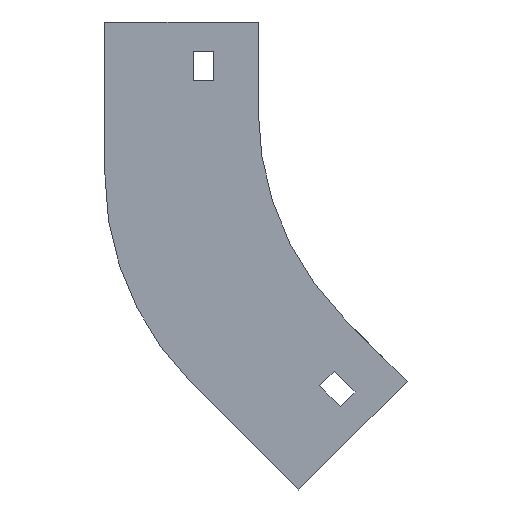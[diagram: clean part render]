
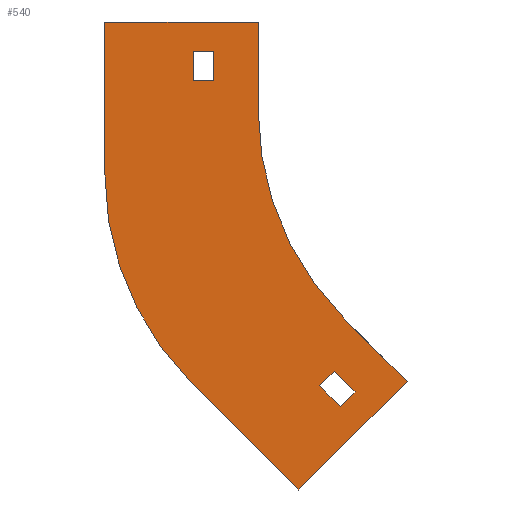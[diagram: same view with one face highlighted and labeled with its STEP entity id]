
A CAD part, left-side view. The second image highlights one B-rep face of the part: STEP entity #540.
In plain terms, the highlighted planar face has unit normal (-1, 0, 0).
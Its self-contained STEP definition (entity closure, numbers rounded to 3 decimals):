
#3 = LINE ( 'NONE', #431, #1249 ) ;
#10 = CARTESIAN_POINT ( 'NONE',  ( -39.5, 0., -30. ) ) ;
#15 = DIRECTION ( 'NONE',  ( 0., 1., 0. ) ) ;
#31 = CARTESIAN_POINT ( 'NONE',  ( -39.5, 0., 0. ) ) ;
#44 = DIRECTION ( 'NONE',  ( 0., 0., -1. ) ) ;
#45 = ORIENTED_EDGE ( 'NONE', *, *, #584, .T. ) ;
#52 = EDGE_CURVE ( 'NONE', #656, #1297, #3, .T. ) ;
#61 = VERTEX_POINT ( 'NONE', #224 ) ;
#77 = EDGE_LOOP ( 'NONE', ( #1232, #1203, #45, #1190 ) ) ;
#82 = EDGE_CURVE ( 'NONE', #61, #784, #1079, .T. ) ;
#89 = DIRECTION ( 'NONE',  ( 0., -1., 0. ) ) ;
#96 = DIRECTION ( 'NONE',  ( 0., 0., 1. ) ) ;
#107 = VERTEX_POINT ( 'NONE', #1068 ) ;
#110 = CARTESIAN_POINT ( 'NONE',  ( -39.5, -100., -30. ) ) ;
#114 = ORIENTED_EDGE ( 'NONE', *, *, #740, .F. ) ;
#133 = VECTOR ( 'NONE', #1356, 1000. ) ;
#142 = ORIENTED_EDGE ( 'NONE', *, *, #470, .F. ) ;
#144 = LINE ( 'NONE', #452, #687 ) ;
#153 = CARTESIAN_POINT ( 'NONE',  ( -39.5, -20.804, -123.338 ) ) ;
#163 = EDGE_CURVE ( 'NONE', #107, #61, #210, .T. ) ;
#167 = ORIENTED_EDGE ( 'NONE', *, *, #598, .F. ) ;
#183 = CARTESIAN_POINT ( 'NONE',  ( -39.5, 15., -20. ) ) ;
#193 = ORIENTED_EDGE ( 'NONE', *, *, #980, .F. ) ;
#210 = CIRCLE ( 'NONE', #257, 100. ) ;
#220 = EDGE_CURVE ( 'NONE', #326, #676, #1229, .T. ) ;
#221 = LINE ( 'NONE', #731, #838 ) ;
#224 = CARTESIAN_POINT ( 'NONE',  ( -39.5, 52., -51.539 ) ) ;
#255 = DIRECTION ( 'NONE',  ( 0., 0., -1. ) ) ;
#257 = AXIS2_PLACEMENT_3D ( 'NONE', #1296, #447, #44 ) ;
#291 = VECTOR ( 'NONE', #459, 1000. ) ;
#323 = LINE ( 'NONE', #1162, #1214 ) ;
#324 = DIRECTION ( 'NONE',  ( 0., 0., 1. ) ) ;
#326 = VERTEX_POINT ( 'NONE', #707 ) ;
#337 = CARTESIAN_POINT ( 'NONE',  ( -39.5, 15., -10. ) ) ;
#338 = CARTESIAN_POINT ( 'NONE',  ( -39.5, -50.503, -121.924 ) ) ;
#356 = CARTESIAN_POINT ( 'NONE',  ( -39.5, -32.825, -125.459 ) ) ;
#359 = VECTOR ( 'NONE', #255, 1000. ) ;
#362 = CARTESIAN_POINT ( 'NONE',  ( -39.5, -32.825, -125.459 ) ) ;
#363 = CARTESIAN_POINT ( 'NONE',  ( -39.5, -27.875, -130.409 ) ) ;
#368 = CARTESIAN_POINT ( 'NONE',  ( -39.5, 15., -10. ) ) ;
#370 = VECTOR ( 'NONE', #649, 1000. ) ;
#379 = VECTOR ( 'NONE', #665, 1000. ) ;
#402 = ORIENTED_EDGE ( 'NONE', *, *, #637, .F. ) ;
#414 = FACE_OUTER_BOUND ( 'NONE', #871, .T. ) ;
#431 = CARTESIAN_POINT ( 'NONE',  ( -39.5, -50.503, -121.924 ) ) ;
#436 = VECTOR ( 'NONE', #999, 1000. ) ;
#439 = FACE_BOUND ( 'NONE', #77, .T. ) ;
#447 = DIRECTION ( 'NONE',  ( 1., 0., 0. ) ) ;
#448 = ORIENTED_EDGE ( 'NONE', *, *, #568, .F. ) ;
#452 = CARTESIAN_POINT ( 'NONE',  ( -39.5, -29.289, -100.711 ) ) ;
#459 = DIRECTION ( 'NONE',  ( 0., -0.707, -0.707 ) ) ;
#469 = VERTEX_POINT ( 'NONE', #1051 ) ;
#470 = EDGE_CURVE ( 'NONE', #534, #469, #1235, .T. ) ;
#473 = EDGE_CURVE ( 'NONE', #581, #1024, #1295, .T. ) ;
#476 = EDGE_CURVE ( 'NONE', #1297, #107, #1272, .T. ) ;
#477 = ORIENTED_EDGE ( 'NONE', *, *, #595, .F. ) ;
#490 = EDGE_CURVE ( 'NONE', #1351, #581, #221, .T. ) ;
#515 = VECTOR ( 'NONE', #1400, 1000. ) ;
#520 = CARTESIAN_POINT ( 'NONE',  ( -39.5, 52., -51.539 ) ) ;
#534 = VERTEX_POINT ( 'NONE', #10 ) ;
#538 = AXIS2_PLACEMENT_3D ( 'NONE', #110, #739, #1042 ) ;
#540 = ADVANCED_FACE ( 'NONE', ( #439, #414, #835 ), #1278, .T. ) ;
#549 = DIRECTION ( 'NONE',  ( 0., 0.707, -0.707 ) ) ;
#559 = LINE ( 'NONE', #356, #560 ) ;
#560 = VECTOR ( 'NONE', #1090, 1000. ) ;
#568 = EDGE_CURVE ( 'NONE', #469, #656, #144, .T. ) ;
#572 = LINE ( 'NONE', #779, #906 ) ;
#578 = CARTESIAN_POINT ( 'NONE',  ( -39.5, 22., -10. ) ) ;
#581 = VERTEX_POINT ( 'NONE', #578 ) ;
#584 = EDGE_CURVE ( 'NONE', #1174, #1351, #572, .T. ) ;
#595 = EDGE_CURVE ( 'NONE', #863, #534, #1307, .T. ) ;
#598 = EDGE_CURVE ( 'NONE', #1071, #326, #559, .T. ) ;
#607 = ORIENTED_EDGE ( 'NONE', *, *, #220, .F. ) ;
#625 = CARTESIAN_POINT ( 'NONE',  ( -39.5, -13.733, -158.693 ) ) ;
#637 = EDGE_CURVE ( 'NONE', #676, #1138, #1097, .T. ) ;
#649 = DIRECTION ( 'NONE',  ( 0., 0., 1. ) ) ;
#650 = ORIENTED_EDGE ( 'NONE', *, *, #82, .F. ) ;
#656 = VERTEX_POINT ( 'NONE', #338 ) ;
#665 = DIRECTION ( 'NONE',  ( 0., 0., -1. ) ) ;
#676 = VERTEX_POINT ( 'NONE', #1216 ) ;
#687 = VECTOR ( 'NONE', #1221, 1000. ) ;
#706 = CARTESIAN_POINT ( 'NONE',  ( -39.5, 0., 0. ) ) ;
#707 = CARTESIAN_POINT ( 'NONE',  ( -39.5, -25.754, -118.388 ) ) ;
#731 = CARTESIAN_POINT ( 'NONE',  ( -39.5, 22., -10. ) ) ;
#739 = DIRECTION ( 'NONE',  ( -1., 0., 0. ) ) ;
#740 = EDGE_CURVE ( 'NONE', #784, #863, #1237, .T. ) ;
#757 = ORIENTED_EDGE ( 'NONE', *, *, #476, .F. ) ;
#779 = CARTESIAN_POINT ( 'NONE',  ( -39.5, 22., -20. ) ) ;
#784 = VERTEX_POINT ( 'NONE', #1227 ) ;
#795 = ORIENTED_EDGE ( 'NONE', *, *, #163, .F. ) ;
#816 = CARTESIAN_POINT ( 'NONE',  ( -39.5, 52., 0. ) ) ;
#826 = CARTESIAN_POINT ( 'NONE',  ( -39.5, -13.733, -158.693 ) ) ;
#835 = FACE_BOUND ( 'NONE', #1289, .T. ) ;
#838 = VECTOR ( 'NONE', #96, 1000. ) ;
#863 = VERTEX_POINT ( 'NONE', #706 ) ;
#871 = EDGE_LOOP ( 'NONE', ( #114, #650, #795, #757, #902, #448, #142, #477 ) ) ;
#902 = ORIENTED_EDGE ( 'NONE', *, *, #52, .F. ) ;
#906 = VECTOR ( 'NONE', #15, 1000. ) ;
#929 = CARTESIAN_POINT ( 'NONE',  ( -39.5, 22., -10. ) ) ;
#948 = AXIS2_PLACEMENT_3D ( 'NONE', #1301, #1172, #324 ) ;
#980 = EDGE_CURVE ( 'NONE', #1138, #1071, #323, .T. ) ;
#999 = DIRECTION ( 'NONE',  ( 0., 0.707, -0.707 ) ) ;
#1024 = VERTEX_POINT ( 'NONE', #368 ) ;
#1042 = DIRECTION ( 'NONE',  ( 0., 0., 1. ) ) ;
#1051 = CARTESIAN_POINT ( 'NONE',  ( -39.5, -29.289, -100.711 ) ) ;
#1068 = CARTESIAN_POINT ( 'NONE',  ( -39.5, 22.711, -122.25 ) ) ;
#1071 = VERTEX_POINT ( 'NONE', #362 ) ;
#1079 = LINE ( 'NONE', #520, #370 ) ;
#1081 = EDGE_CURVE ( 'NONE', #1024, #1174, #1306, .T. ) ;
#1090 = DIRECTION ( 'NONE',  ( 0., 0.707, 0.707 ) ) ;
#1097 = LINE ( 'NONE', #363, #291 ) ;
#1138 = VERTEX_POINT ( 'NONE', #1330 ) ;
#1162 = CARTESIAN_POINT ( 'NONE',  ( -39.5, -27.875, -130.409 ) ) ;
#1172 = DIRECTION ( 'NONE',  ( -1., 0., 0. ) ) ;
#1174 = VERTEX_POINT ( 'NONE', #183 ) ;
#1190 = ORIENTED_EDGE ( 'NONE', *, *, #490, .T. ) ;
#1203 = ORIENTED_EDGE ( 'NONE', *, *, #1081, .T. ) ;
#1214 = VECTOR ( 'NONE', #1270, 1000. ) ;
#1216 = CARTESIAN_POINT ( 'NONE',  ( -39.5, -20.804, -123.338 ) ) ;
#1221 = DIRECTION ( 'NONE',  ( 0., -0.707, -0.707 ) ) ;
#1227 = CARTESIAN_POINT ( 'NONE',  ( -39.5, 52., 0. ) ) ;
#1229 = LINE ( 'NONE', #153, #436 ) ;
#1232 = ORIENTED_EDGE ( 'NONE', *, *, #473, .T. ) ;
#1235 = CIRCLE ( 'NONE', #538, 100. ) ;
#1237 = LINE ( 'NONE', #816, #133 ) ;
#1249 = VECTOR ( 'NONE', #549, 1000. ) ;
#1270 = DIRECTION ( 'NONE',  ( 0., -0.707, 0.707 ) ) ;
#1272 = LINE ( 'NONE', #625, #515 ) ;
#1276 = CARTESIAN_POINT ( 'NONE',  ( -39.5, 22., -20. ) ) ;
#1278 = PLANE ( 'NONE',  #948 ) ;
#1289 = EDGE_LOOP ( 'NONE', ( #167, #193, #402, #607 ) ) ;
#1295 = LINE ( 'NONE', #929, #1328 ) ;
#1296 = CARTESIAN_POINT ( 'NONE',  ( -39.5, -48., -51.539 ) ) ;
#1297 = VERTEX_POINT ( 'NONE', #826 ) ;
#1301 = CARTESIAN_POINT ( 'NONE',  ( -39.5, -100., -30. ) ) ;
#1306 = LINE ( 'NONE', #337, #359 ) ;
#1307 = LINE ( 'NONE', #31, #379 ) ;
#1328 = VECTOR ( 'NONE', #89, 1000. ) ;
#1330 = CARTESIAN_POINT ( 'NONE',  ( -39.5, -27.875, -130.409 ) ) ;
#1351 = VERTEX_POINT ( 'NONE', #1276 ) ;
#1356 = DIRECTION ( 'NONE',  ( 0., -1., 0. ) ) ;
#1400 = DIRECTION ( 'NONE',  ( 0., 0.707, 0.707 ) ) ;
